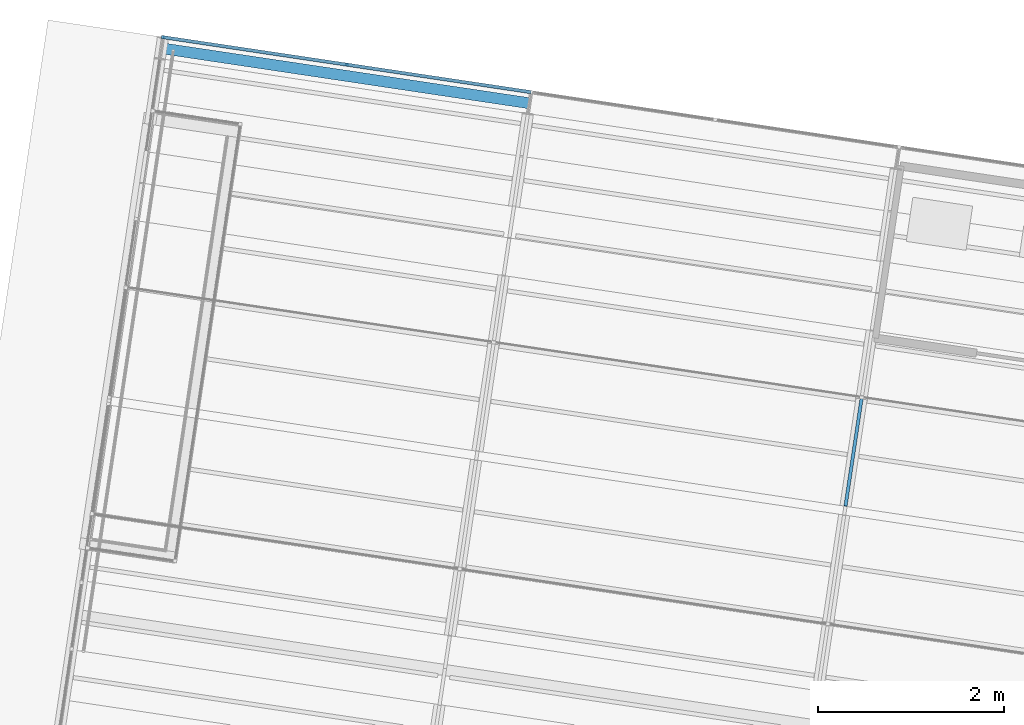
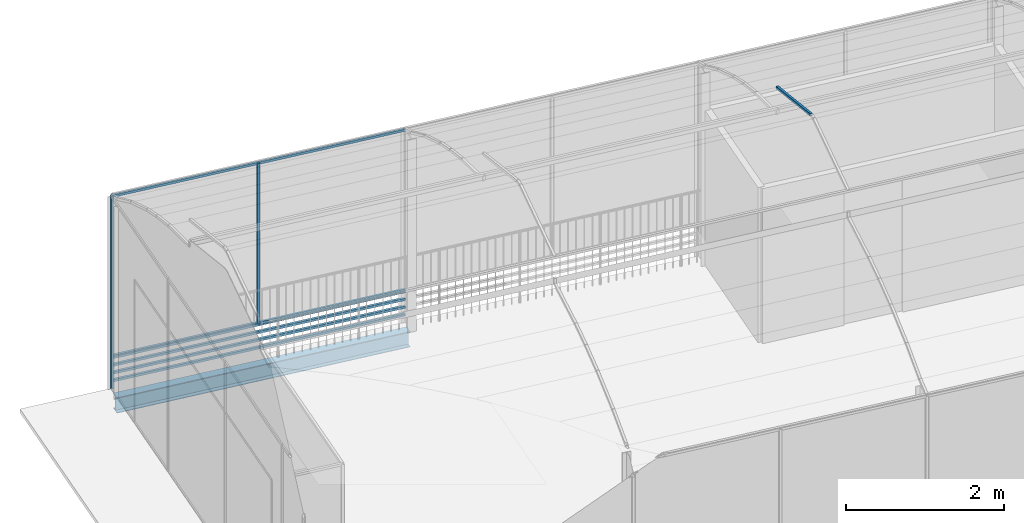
# One storey, part 8 of 34: 16 members, 1 beam, 1 element without a shape of its own.
"""IFC4 building model written with IfcOpenShell, lengths in metres."""

import ifcopenshell
import ifcopenshell.guid

model = None  # the IFC model being written
_history = None  # IfcOwnerHistory: only IFC2X3 demands one
_inside = {}  # id of a spatial element -> (the spatial element, [elements in it])
_under = {}  # id of a project, library or spatial element -> (it, [spatial elements below it])
_declared = {}  # id of a project -> (the project, [libraries it declares])
_typed = {}  # id of a type object -> (the type object, [elements of that type])
_made_of = {}  # id of a material, layer set ... -> (it, [elements and type objects made of it])


def new_model(schema):
    """Start an empty IFC model of exactly this schema.

    Asked for "IFC4X3", IfcOpenShell would pick the latest addendum, in which some entities
    have other attributes; the version numbers below select the first issue.
    IFC2X3 requires an IfcOwnerHistory on every rooted entity: one is made here for all.
    """
    global model, _history
    if schema == "IFC4X3":
        model = ifcopenshell.file(schema_version=(4, 3, 0, 0))
    else:
        model = ifcopenshell.file(schema=schema)
    _inside.clear()
    _under.clear()
    _declared.clear()
    _typed.clear()
    _made_of.clear()
    _history = None
    if model.schema == "IFC2X3":
        org = make("IfcOrganization", Name="unknown")
        user = make(
            "IfcPersonAndOrganization",
            ThePerson=make("IfcPerson", FamilyName="unknown"),
            TheOrganization=org,
        )
        app = make(
            "IfcApplication",
            ApplicationDeveloper=org,
            Version="unknown",
            ApplicationFullName="unknown",
            ApplicationIdentifier="unknown",
        )
        _history = make(
            "IfcOwnerHistory",
            OwningUser=user,
            OwningApplication=app,
            ChangeAction="ADDED",
            CreationDate=0,
        )
    return model


def make(cls, **values):
    """One entity of the class cls with the attributes given. An attribute that is None is left unset."""
    return model.create_entity(
        cls, **{name: value for name, value in values.items() if value is not None}
    )


def rooted(cls, **values):
    """An entity with a GlobalId (a new one), such as an element, a storey or a relation."""
    return make(cls, GlobalId=ifcopenshell.guid.new(), OwnerHistory=_history, **values)


def si_unit(unit_type, name, prefix=None):
    """IfcSIUnit, for example si_unit("LENGTHUNIT", "METRE", prefix="MILLI")."""
    return make("IfcSIUnit", UnitType=unit_type, Prefix=prefix, Name=name)


def assignment(units):
    """IfcUnitAssignment: the units of a project."""
    return None if units is None else make("IfcUnitAssignment", Units=units)


def point(xyz):
    """IfcCartesianPoint."""
    return None if xyz is None else make("IfcCartesianPoint", Coordinates=xyz)


def direction(xyz):
    """IfcDirection."""
    return None if xyz is None else make("IfcDirection", DirectionRatios=xyz)


def frame(location, z_axis=None, x_axis=None):
    """IfcAxis2Placement3D, a coordinate frame: its origin and axes. An axis left out is left unset."""
    return make(
        "IfcAxis2Placement3D",
        Location=point(location),
        Axis=direction(z_axis),
        RefDirection=direction(x_axis),
    )


def origin_with_axes():
    """The frame at (0, 0, 0) with the z axis (0, 0, 1) and the x axis (1, 0, 0) written out."""
    return frame((0.0, 0.0, 0.0), z_axis=(0.0, 0.0, 1.0), x_axis=(1.0, 0.0, 0.0))


def place(relative_to, where):
    """IfcLocalPlacement: puts the frame where relative to a parent placement (None: the world)."""
    return make(
        "IfcLocalPlacement", PlacementRelTo=relative_to, RelativePlacement=where
    )


def context(
    kind, dimensions, precision=None, world=None, true_north=None, identifier=None
):
    """IfcGeometricRepresentationContext, for example the 3D "Model" context."""
    return make(
        "IfcGeometricRepresentationContext",
        ContextIdentifier=identifier,
        ContextType=kind,
        CoordinateSpaceDimension=dimensions,
        Precision=precision,
        WorldCoordinateSystem=world,
        TrueNorth=true_north,
    )


def subcontext(parent, identifier, kind, view, scale=None):
    """IfcGeometricRepresentationSubContext, for example "Body" below "Model"."""
    return make(
        "IfcGeometricRepresentationSubContext",
        ContextIdentifier=identifier,
        ContextType=kind,
        ParentContext=parent,
        TargetScale=scale,
        TargetView=view,
    )


def project(units=None, contexts=None):
    """IfcProject with its units and contexts."""
    return rooted(
        "IfcProject",
        Name="project",
        RepresentationContexts=contexts,
        UnitsInContext=assignment(units),
    )


def spatial(cls, under=None, at=None, **own):
    """A site, building, storey or space (cls), placed at a placement, below another one or the project."""
    s = rooted(cls, ObjectPlacement=at, **own)
    if under is not None:
        _under.setdefault(under.id(), (under, []))[1].append(s)
    return s


def profile(cls, at=None, kind="AREA", **sizes):
    """A parametric profile (cls). Its sizes go by their IFC names, for example OverallWidth=200.0."""
    return make(cls, ProfileType=kind, Position=at, **sizes)


def rectangle(**sizes):
    """IfcRectangleProfileDef."""
    return profile("IfcRectangleProfileDef", **sizes)


def i_section(**sizes):
    """IfcIShapeProfileDef."""
    return profile("IfcIShapeProfileDef", **sizes)


def extrude(swept, where, along, depth):
    """IfcExtrudedAreaSolid: the profile swept, set in the frame where, extruded along a direction by depth."""
    return make(
        "IfcExtrudedAreaSolid",
        SweptArea=swept,
        Position=where,
        ExtrudedDirection=direction(along),
        Depth=depth,
    )


def shape(context_of_items, identifier, shape_type, items):
    """IfcShapeRepresentation: the items that make up one representation, for example the "Body"."""
    return make(
        "IfcShapeRepresentation",
        ContextOfItems=context_of_items,
        RepresentationIdentifier=identifier,
        RepresentationType=shape_type,
        Items=items,
    )


def material(Name=None, Category=None):
    """IfcMaterial."""
    return make("IfcMaterial", Name=Name, Category=Category)


def material_profile(
    of_material, cross_section, Name=None, Category=None, Priority=None
):
    """IfcMaterialProfile: a cross section and its material."""
    return make(
        "IfcMaterialProfile",
        Name=Name,
        Material=of_material,
        Profile=cross_section,
        Priority=Priority,
        Category=Category,
    )


def profile_set(profiles, Name=None, composite=None):
    """IfcMaterialProfileSet."""
    return make(
        "IfcMaterialProfileSet",
        Name=Name,
        MaterialProfiles=profiles,
        CompositeProfile=composite,
    )


def profile_usage(for_profile_set, cardinal=None, extent=None):
    """IfcMaterialProfileSetUsage: how a profile set lies along its element."""
    return make(
        "IfcMaterialProfileSetUsage",
        ForProfileSet=for_profile_set,
        CardinalPoint=cardinal,
        ReferenceExtent=extent,
    )


def made_of(thing, what):
    """Note that an element or type object is made of a material, layer set ...; save() writes the relation."""
    if what is not None:
        _made_of.setdefault(what.id(), (what, []))[1].append(thing)
    return thing


def type_object(cls, material=None, **own):
    """A type object (cls), such as IfcWallType, which elements share."""
    return made_of(rooted(cls, **own), material)


def element(
    cls,
    number,
    at=None,
    inside=None,
    cuts=None,
    type_object=None,
    material=None,
    context=None,
    identifier="Body",
    shape_type=None,
    held_by="IfcProductDefinitionShape",
    body=None,
    shapes=None,
    **own,
):
    """One element of the class cls, such as IfcWall. Its Tag is "e" and its number.

    at: its placement. inside: the storey or other place that contains it. cuts: it is an
    opening in that element (IfcRelVoidsElement). A single representation is given by context,
    identifier, shape_type and body (its items); several are given by shapes. held_by: the class
    of the entity that holds the representations. save() writes the other relations.
    """
    e = rooted(cls, Tag="e%d" % number, ObjectPlacement=at, **own)
    if body is not None:
        shapes = [shape(context, identifier, shape_type, body)]
    if shapes is not None:
        e.Representation = make(held_by, Representations=shapes)
    if inside is not None:
        _inside.setdefault(inside.id(), (inside, []))[1].append(e)
    if cuts is not None:
        rooted(
            "IfcRelVoidsElement", RelatingBuildingElement=cuts, RelatedOpeningElement=e
        )
    if type_object is not None:
        _typed.setdefault(type_object.id(), (type_object, []))[1].append(e)
    return made_of(e, material)


def aggregate(whole, parts):
    """IfcRelAggregates: a whole, such as a stair, and the parts it consists of."""
    return rooted("IfcRelAggregates", RelatingObject=whole, RelatedObjects=parts)


def save(model, path):
    """Write the relations noted so far, then the file.

    IfcRelAggregates (storeys below a building ...), IfcRelContainedInSpatialStructure (elements
    in a storey), IfcRelDefinesByType, IfcRelAssociatesMaterial and IfcRelDeclares: one each for
    every whole, place, type object, material and project.
    """
    for whole, parts in _under.values():
        aggregate(whole, parts)
    for where, things in _inside.values():
        rooted(
            "IfcRelContainedInSpatialStructure",
            RelatedElements=things,
            RelatingStructure=where,
        )
    for kind, things in _typed.values():
        rooted("IfcRelDefinesByType", RelatedObjects=things, RelatingType=kind)
    for what, things in _made_of.values():
        rooted("IfcRelAssociatesMaterial", RelatedObjects=things, RelatingMaterial=what)
    for by, libraries in _declared.values():
        rooted("IfcRelDeclares", RelatingContext=by, RelatedDefinitions=libraries)
    model.write(path)


model = new_model("IFC4")

# Units and contexts
model_context = context("Model", 3, precision=1e-05, world=origin_with_axes(), true_north=direction((0.0, 1.0)))
body_context = subcontext(model_context, "Body", "Model", "MODEL_VIEW")
ifc_project = project(units=[si_unit("LENGTHUNIT", "METRE"), si_unit("AREAUNIT", "SQUARE_METRE"), si_unit("VOLUMEUNIT", "CUBIC_METRE")], contexts=[model_context])

# Site, building, storey
site_placement = place(None, origin_with_axes())
site = spatial("IfcSite", under=ifc_project, at=site_placement, Name="Lares · Rua das Mercês · artigo 4771")
building_placement = place(site_placement, frame((15.0, 9.7, 14.65), z_axis=(0.0, 0.0, 1.0), x_axis=(0.989015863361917, -0.147809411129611, 0.0)))
building = spatial("IfcBuilding", under=site, at=building_placement, Name="Casa Sobreposta")
storey_placement = place(building_placement, frame((0.0, 0.0, 3.24), z_axis=(0.0, 0.0, 1.0), x_axis=(1.0, 0.0, 0.0)))
storey = spatial("IfcBuildingStorey", under=building, at=storey_placement, Name="01 · Jardim de inverno", Elevation=17.89)

# Beam
ifc_material_1 = material(Name="Aço pintado / Stahl lackiert", Category="steel")
ifc_material_profile_1 = material_profile(ifc_material_1, i_section(OverallWidth=0.12, OverallDepth=0.24, WebThickness=0.0062, FlangeThickness=0.0098))
ifc_profile_set_1 = profile_set([ifc_material_profile_1], Name="IPE240")
ifc_profile_usage_1 = profile_usage(ifc_profile_set_1)
beam_type = type_object("IfcBeamType", Name="IPE240 / steel", PredefinedType="NOTDEFINED", material=ifc_profile_set_1)
beam_placement = place(storey_placement, frame((0.0, 6.28, -0.152), z_axis=(1.0, 0.0, 0.0), x_axis=(0.0, -1.0, 0.0)))
element("IfcBeam", 1, at=beam_placement, inside=storey, type_object=beam_type, material=ifc_profile_usage_1, Name="Viga longitudinal 0 / 6.28", context=body_context, shape_type="SweptSolid", body=[
    extrude(i_section(OverallWidth=0.12, OverallDepth=0.24, WebThickness=0.0062, FlangeThickness=0.0098), origin_with_axes(), (0.0, 0.0, 1.0), 4.0),
])

# Members
ifc_material_profile_2 = material_profile(ifc_material_1, rectangle(XDim=0.035, YDim=0.035))
ifc_profile_set_2 = profile_set([ifc_material_profile_2], Name="R0.035")
ifc_profile_usage_2 = profile_usage(ifc_profile_set_2)
member_type = type_object("IfcMemberType", Name="R0.035 / steel", PredefinedType="NOTDEFINED", material=ifc_profile_set_2)
member_1_placement = place(storey_placement, frame((2.0, 6.4, 0.5), z_axis=(0.0, 0.0, 1.0), x_axis=(1.0, 0.0, 0.0)))
element("IfcMember", 2, at=member_1_placement, inside=storey, type_object=member_type, material=ifc_profile_usage_2, context=body_context, shape_type="SweptSolid", body=[
    extrude(rectangle(XDim=0.035, YDim=0.035), origin_with_axes(), (0.0, 0.0, 1.0), 2.48),
])
ifc_profile_usage_3 = profile_usage(ifc_profile_set_2)
member_2_placement = place(storey_placement, frame((0.0, 6.4, 0.5), z_axis=(1.0, 0.0, 0.0), x_axis=(0.0, -1.0, 0.0)))
element("IfcMember", 3, at=member_2_placement, inside=storey, type_object=member_type, material=ifc_profile_usage_3, Name="Estufa norte 1 · travessa", context=body_context, shape_type="SweptSolid", body=[
    extrude(rectangle(XDim=0.035, YDim=0.035), origin_with_axes(), (0.0, 0.0, 1.0), 2.0),
])
ifc_profile_usage_4 = profile_usage(ifc_profile_set_2)
member_3_placement = place(storey_placement, frame((0.0, 6.4, 2.98), z_axis=(1.0, 0.0, 0.0), x_axis=(0.0, -1.0, 0.0)))
element("IfcMember", 4, at=member_3_placement, inside=storey, type_object=member_type, material=ifc_profile_usage_4, Name="Estufa norte 1 · travessa", context=body_context, shape_type="SweptSolid", body=[
    extrude(rectangle(XDim=0.035, YDim=0.035), origin_with_axes(), (0.0, 0.0, 1.0), 2.0),
])
ifc_profile_usage_5 = profile_usage(ifc_profile_set_2)
member_4_placement = place(storey_placement, frame((0.0, 6.4, 0.12), z_axis=(1.0, 0.0, 0.0), x_axis=(0.0, -1.0, 0.0)))
element("IfcMember", 5, at=member_4_placement, inside=storey, type_object=member_type, material=ifc_profile_usage_5, Name="Entrada de ar norte 1", context=body_context, shape_type="SweptSolid", body=[
    extrude(rectangle(XDim=0.035, YDim=0.035), origin_with_axes(), (0.0, 0.0, 1.0), 2.0),
])
ifc_profile_usage_6 = profile_usage(ifc_profile_set_2)
member_5_placement = place(storey_placement, frame((0.0, 6.4, 0.24), z_axis=(1.0, 0.0, 0.0), x_axis=(0.0, -1.0, 0.0)))
element("IfcMember", 6, at=member_5_placement, inside=storey, type_object=member_type, material=ifc_profile_usage_6, Name="Entrada de ar norte 1", context=body_context, shape_type="SweptSolid", body=[
    extrude(rectangle(XDim=0.035, YDim=0.035), origin_with_axes(), (0.0, 0.0, 1.0), 2.0),
])
ifc_profile_usage_7 = profile_usage(ifc_profile_set_2)
member_6_placement = place(storey_placement, frame((0.0, 6.4, 0.36), z_axis=(1.0, 0.0, 0.0), x_axis=(0.0, -1.0, 0.0)))
element("IfcMember", 7, at=member_6_placement, inside=storey, type_object=member_type, material=ifc_profile_usage_7, Name="Entrada de ar norte 1", context=body_context, shape_type="SweptSolid", body=[
    extrude(rectangle(XDim=0.035, YDim=0.035), origin_with_axes(), (0.0, 0.0, 1.0), 2.0),
])
ifc_profile_usage_8 = profile_usage(ifc_profile_set_2)
member_7_placement = place(storey_placement, frame((0.0, 6.4, 0.48), z_axis=(1.0, 0.0, 0.0), x_axis=(0.0, -1.0, 0.0)))
element("IfcMember", 8, at=member_7_placement, inside=storey, type_object=member_type, material=ifc_profile_usage_8, Name="Entrada de ar norte 1", context=body_context, shape_type="SweptSolid", body=[
    extrude(rectangle(XDim=0.035, YDim=0.035), origin_with_axes(), (0.0, 0.0, 1.0), 2.0),
])
ifc_profile_usage_9 = profile_usage(ifc_profile_set_2)
member_8_placement = place(storey_placement, frame((2.0, 6.4, 0.5), z_axis=(0.0, 0.0, 1.0), x_axis=(1.0, 0.0, 0.0)))
element("IfcMember", 9, at=member_8_placement, inside=storey, type_object=member_type, material=ifc_profile_usage_9, context=body_context, shape_type="SweptSolid", body=[
    extrude(rectangle(XDim=0.035, YDim=0.035), origin_with_axes(), (0.0, 0.0, 1.0), 2.48),
])
ifc_profile_usage_10 = profile_usage(ifc_profile_set_2)
member_9_placement = place(storey_placement, frame((2.0, 6.4, 0.5), z_axis=(1.0, 0.0, 0.0), x_axis=(0.0, -1.0, 0.0)))
element("IfcMember", 10, at=member_9_placement, inside=storey, type_object=member_type, material=ifc_profile_usage_10, Name="Estufa norte 2 · travessa", context=body_context, shape_type="SweptSolid", body=[
    extrude(rectangle(XDim=0.035, YDim=0.035), origin_with_axes(), (0.0, 0.0, 1.0), 2.0),
])
ifc_profile_usage_11 = profile_usage(ifc_profile_set_2)
member_10_placement = place(storey_placement, frame((2.0, 6.4, 2.98), z_axis=(1.0, 0.0, 0.0), x_axis=(0.0, -1.0, 0.0)))
element("IfcMember", 11, at=member_10_placement, inside=storey, type_object=member_type, material=ifc_profile_usage_11, Name="Estufa norte 2 · travessa", context=body_context, shape_type="SweptSolid", body=[
    extrude(rectangle(XDim=0.035, YDim=0.035), origin_with_axes(), (0.0, 0.0, 1.0), 2.0),
])
ifc_profile_usage_12 = profile_usage(ifc_profile_set_2)
member_11_placement = place(storey_placement, frame((2.0, 6.4, 0.12), z_axis=(1.0, 0.0, 0.0), x_axis=(0.0, -1.0, 0.0)))
element("IfcMember", 12, at=member_11_placement, inside=storey, type_object=member_type, material=ifc_profile_usage_12, Name="Entrada de ar norte 2", context=body_context, shape_type="SweptSolid", body=[
    extrude(rectangle(XDim=0.035, YDim=0.035), origin_with_axes(), (0.0, 0.0, 1.0), 2.0),
])
ifc_profile_usage_13 = profile_usage(ifc_profile_set_2)
member_12_placement = place(storey_placement, frame((2.0, 6.4, 0.24), z_axis=(1.0, 0.0, 0.0), x_axis=(0.0, -1.0, 0.0)))
element("IfcMember", 13, at=member_12_placement, inside=storey, type_object=member_type, material=ifc_profile_usage_13, Name="Entrada de ar norte 2", context=body_context, shape_type="SweptSolid", body=[
    extrude(rectangle(XDim=0.035, YDim=0.035), origin_with_axes(), (0.0, 0.0, 1.0), 2.0),
])
ifc_profile_usage_14 = profile_usage(ifc_profile_set_2)
member_13_placement = place(storey_placement, frame((2.0, 6.4, 0.36), z_axis=(1.0, 0.0, 0.0), x_axis=(0.0, -1.0, 0.0)))
element("IfcMember", 14, at=member_13_placement, inside=storey, type_object=member_type, material=ifc_profile_usage_14, Name="Entrada de ar norte 2", context=body_context, shape_type="SweptSolid", body=[
    extrude(rectangle(XDim=0.035, YDim=0.035), origin_with_axes(), (0.0, 0.0, 1.0), 2.0),
])
ifc_profile_usage_15 = profile_usage(ifc_profile_set_2)
member_14_placement = place(storey_placement, frame((2.0, 6.4, 0.48), z_axis=(1.0, 0.0, 0.0), x_axis=(0.0, -1.0, 0.0)))
element("IfcMember", 15, at=member_14_placement, inside=storey, type_object=member_type, material=ifc_profile_usage_15, Name="Entrada de ar norte 2", context=body_context, shape_type="SweptSolid", body=[
    extrude(rectangle(XDim=0.035, YDim=0.035), origin_with_axes(), (0.0, 0.0, 1.0), 2.0),
])
ifc_profile_usage_16 = profile_usage(ifc_profile_set_2)
member_15_placement = place(storey_placement, frame((0.0, 6.4, 0.0), z_axis=(0.0, 0.0, 1.0), x_axis=(1.0, 0.0, 0.0)))
element("IfcMember", 16, at=member_15_placement, inside=storey, type_object=member_type, material=ifc_profile_usage_16, Name="Estufa poente 4 · montante", context=body_context, shape_type="SweptSolid", body=[
    extrude(rectangle(XDim=0.035, YDim=0.035), origin_with_axes(), (0.0, 0.0, 1.0), 2.98),
])

# Roof, member
ifc_material_2 = material(Name="Vidro / Normalglas", Category="glass")
roof_placement = place(storey_placement, frame((0.0, 0.0, -3.24), z_axis=(0.0, 0.0, 1.0), x_axis=(1.0, 0.0, 0.0)))
roof = element("IfcRoof", 17, at=roof_placement, inside=storey, material=ifc_material_2, Name="Cobertura translúcida da estufa", PredefinedType="BARREL_ROOF")
ifc_profile_usage_17 = profile_usage(ifc_profile_set_2)
member_16_placement = place(roof_placement, frame((8.0, 2.49770027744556, 7.96518238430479), z_axis=(0.0, 0.96007374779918, -0.279747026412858), x_axis=(1.0, 0.0, 0.0)))
member_16 = element("IfcMember", 18, at=member_16_placement, type_object=member_type, material=ifc_profile_usage_17, Name="Arco estufa 8/9", context=body_context, shape_type="SweptSolid", body=[
    extrude(rectangle(XDim=0.035, YDim=0.035), origin_with_axes(), (0.0, 0.0, 1.0), 1.23148937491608),
])
aggregate(roof, [member_16])

save(model, "model.ifc")
